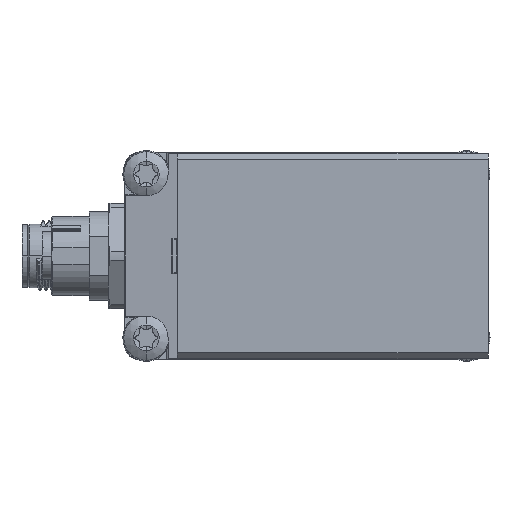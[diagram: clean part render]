
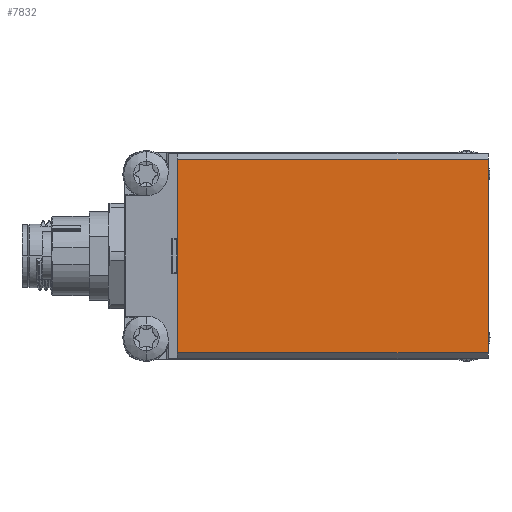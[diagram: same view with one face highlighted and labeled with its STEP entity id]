
A CAD part, front view. The second image highlights one B-rep face of the part: STEP entity #7832.
In plain terms, the highlighted planar face has unit normal (0, -1, 0).
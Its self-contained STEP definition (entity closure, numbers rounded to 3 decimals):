
#7832 = ADVANCED_FACE ( 'NONE', ( #113568 ), #171897, .F. ) ;
#24402 = EDGE_LOOP ( 'NONE', ( #174459, #174435, #174591, #174623 ) ) ;
#31493 = AXIS2_PLACEMENT_3D ( 'NONE', #171912, #171913, #171915 ) ;
#43908 = EDGE_CURVE ( 'NONE', #191683, #191693, #59963, .T. ) ;
#43912 = EDGE_CURVE ( 'NONE', #191693, #191710, #59967, .T. ) ;
#43915 = EDGE_CURVE ( 'NONE', #191715, #191710, #59976, .T. ) ;
#43918 = EDGE_CURVE ( 'NONE', #191715, #191683, #59972, .T. ) ;
#59963 = LINE ( 'NONE', #66243, #59974 ) ;
#59967 = LINE ( 'NONE', #66267, #59978 ) ;
#59972 = LINE ( 'NONE', #66269, #59987 ) ;
#59974 = VECTOR ( 'NONE', #66261, 1000. ) ;
#59976 = LINE ( 'NONE', #66272, #59983 ) ;
#59978 = VECTOR ( 'NONE', #66257, 1000. ) ;
#59983 = VECTOR ( 'NONE', #66276, 1000. ) ;
#59987 = VECTOR ( 'NONE', #66281, 1000. ) ;
#66243 = CARTESIAN_POINT ( 'NONE',  ( -22., -42.8, 17.5 ) ) ;
#66257 = DIRECTION ( 'NONE',  ( 1., 0., 0. ) ) ;
#66261 = DIRECTION ( 'NONE',  ( 0., 0., -1. ) ) ;
#66267 = CARTESIAN_POINT ( 'NONE',  ( 31., -42.8, -16.5 ) ) ;
#66269 = CARTESIAN_POINT ( 'NONE',  ( 31., -42.8, 16.5 ) ) ;
#66272 = CARTESIAN_POINT ( 'NONE',  ( 31., -42.8, 17.5 ) ) ;
#66276 = DIRECTION ( 'NONE',  ( 0., 0., -1. ) ) ;
#66281 = DIRECTION ( 'NONE',  ( -1., 0., 0. ) ) ;
#81250 = CARTESIAN_POINT ( 'NONE',  ( -22., -42.8, 16.5 ) ) ;
#81258 = CARTESIAN_POINT ( 'NONE',  ( -22., -42.8, -16.5 ) ) ;
#81263 = CARTESIAN_POINT ( 'NONE',  ( 31., -42.8, -16.5 ) ) ;
#81264 = CARTESIAN_POINT ( 'NONE',  ( 31., -42.8, 16.5 ) ) ;
#113568 = FACE_OUTER_BOUND ( 'NONE', #24402, .T. ) ;
#171897 = PLANE ( 'NONE',  #31493 ) ;
#171912 = CARTESIAN_POINT ( 'NONE',  ( 31., -42.8, 17.5 ) ) ;
#171913 = DIRECTION ( 'NONE',  ( 0., 1., 0. ) ) ;
#171915 = DIRECTION ( 'NONE',  ( 0., 0., 1. ) ) ;
#174435 = ORIENTED_EDGE ( 'NONE', *, *, #43912, .T. ) ;
#174459 = ORIENTED_EDGE ( 'NONE', *, *, #43908, .T. ) ;
#174591 = ORIENTED_EDGE ( 'NONE', *, *, #43915, .F. ) ;
#174623 = ORIENTED_EDGE ( 'NONE', *, *, #43918, .T. ) ;
#191683 = VERTEX_POINT ( 'NONE', #81250 ) ;
#191693 = VERTEX_POINT ( 'NONE', #81258 ) ;
#191710 = VERTEX_POINT ( 'NONE', #81263 ) ;
#191715 = VERTEX_POINT ( 'NONE', #81264 ) ;
